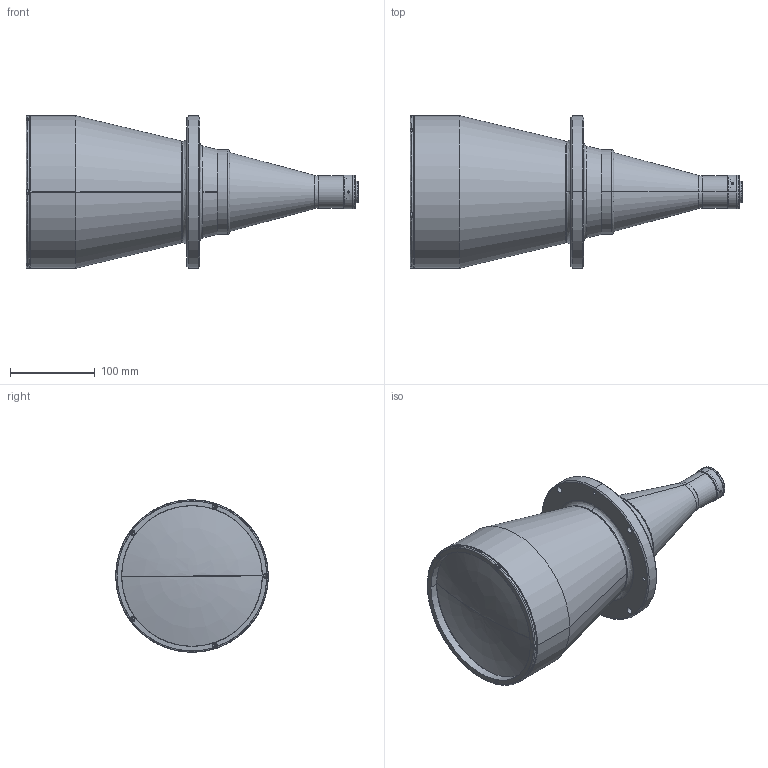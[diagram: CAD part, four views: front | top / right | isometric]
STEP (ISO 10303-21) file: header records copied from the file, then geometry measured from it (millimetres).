
FILE_DESCRIPTION(('LS-TCL-0181'),'2;1');
FILE_NAME('LS-TCL-0181.stp','2026-10-15T21:54:28',('LumaSpec Vision'),('LumaSpec Vision'),'LumaSpec Vision','LumaSpec Vision','');
FILE_SCHEMA(('AUTOMOTIVE_DESIGN { 1 0 10303 214 1 1 1 1 }'));
Length unit declared in the file: millimetre
Products named in the file (203): LumaSpec Vision
Assembly tree (202 placements, depth 2):
  LumaSpec Vision
    LumaSpec Vision
    LumaSpec Vision
    LumaSpec Vision
    LumaSpec Vision
    LumaSpec Vision
    LumaSpec Vision
    LumaSpec Vision
    LumaSpec Vision
    LumaSpec Vision
    LumaSpec Vision
    LumaSpec Vision
    LumaSpec Vision
    LumaSpec Vision
    LumaSpec Vision
    LumaSpec Vision
    LumaSpec Vision
    LumaSpec Vision
    LumaSpec Vision
    LumaSpec Vision
    LumaSpec Vision
    LumaSpec Vision
    LumaSpec Vision
    LumaSpec Vision
    LumaSpec Vision
    LumaSpec Vision
    LumaSpec Vision
    LumaSpec Vision
    LumaSpec Vision
    LumaSpec Vision
    LumaSpec Vision
    LumaSpec Vision
    LumaSpec Vision
    LumaSpec Vision
    LumaSpec Vision
    LumaSpec Vision
    LumaSpec Vision
    LumaSpec Vision
    LumaSpec Vision
    LumaSpec Vision
    LumaSpec Vision
    LumaSpec Vision
    LumaSpec Vision
    LumaSpec Vision
    LumaSpec Vision
    LumaSpec Vision
    LumaSpec Vision
    LumaSpec Vision
    LumaSpec Vision
    LumaSpec Vision
    LumaSpec Vision
    LumaSpec Vision
    LumaSpec Vision
    LumaSpec Vision
    LumaSpec Vision
    LumaSpec Vision
    LumaSpec Vision
    LumaSpec Vision
    LumaSpec Vision
    LumaSpec Vision
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Bounding box: 391.83 x 180 x 180 mm (x, y, z)
Surface area: 218016.4 mm2 (no closed solid volume)
Topology: 0 solids, 202 shells, 202 faces, 3653 edges, 3643 vertices
Faces by surface type: bspline 102, revolution 100
Entity records: 60768 total; most frequent: CARTESIAN_POINT 24641, B_SPLINE_CURVE_WITH_KNOTS 6511, ORIENTED_EDGE 3643, EDGE_CURVE 3643, VERTEX_POINT 3643, SURFACE_CURVE 3643, PCURVE 3643, DEFINITIONAL_REPRESENTATION 3643
